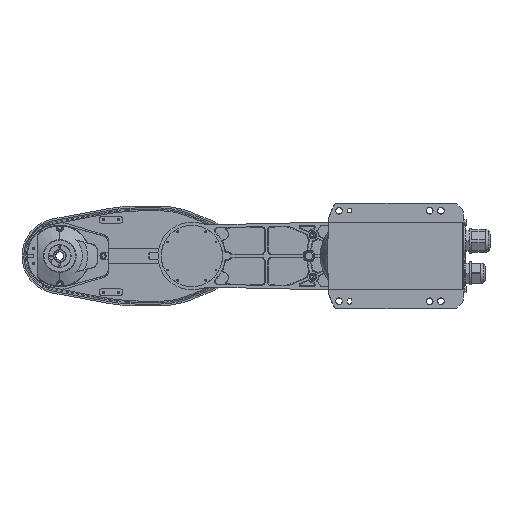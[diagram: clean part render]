
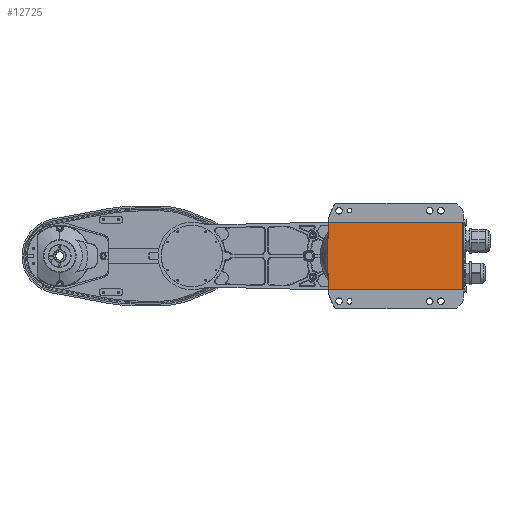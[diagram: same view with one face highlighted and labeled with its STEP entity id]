
A CAD part, front view. The second image highlights one B-rep face of the part: STEP entity #12725.
In plain terms, the highlighted planar face has unit normal (0, -1, 0).
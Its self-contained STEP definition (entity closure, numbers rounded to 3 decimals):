
#3951 = ORIENTED_EDGE ( 'NONE', *, *, #59762, .F. ) ;
#5358 = EDGE_CURVE ( 'NONE', #71130, #83469, #19158, .T. ) ;
#5999 = CARTESIAN_POINT ( 'NONE',  ( -45., 2., 0. ) ) ;
#6532 = PLANE ( 'NONE',  #44481 ) ;
#11736 = CARTESIAN_POINT ( 'NONE',  ( 135., 2., -44.017 ) ) ;
#12725 = ADVANCED_FACE ( 'NONE', ( #74526 ), #6532, .F. ) ;
#14091 = CARTESIAN_POINT ( 'NONE',  ( -45., 2., 0. ) ) ;
#14477 = VECTOR ( 'NONE', #49725, 1000. ) ;
#16712 = VECTOR ( 'NONE', #33321, 1000. ) ;
#19158 = LINE ( 'NONE', #34198, #16712 ) ;
#19632 = EDGE_LOOP ( 'NONE', ( #25416, #3951, #83419, #46228, #79204 ) ) ;
#23252 = CARTESIAN_POINT ( 'NONE',  ( 135., 2., -44.017 ) ) ;
#24106 = DIRECTION ( 'NONE',  ( -1., 0., 0. ) ) ;
#25416 = ORIENTED_EDGE ( 'NONE', *, *, #30835, .T. ) ;
#26456 = VECTOR ( 'NONE', #24106, 1000. ) ;
#28548 = EDGE_CURVE ( 'NONE', #71130, #59128, #52060, .T. ) ;
#28903 = VERTEX_POINT ( 'NONE', #11736 ) ;
#30835 = EDGE_CURVE ( 'NONE', #59128, #46107, #33170, .T. ) ;
#31603 = CARTESIAN_POINT ( 'NONE',  ( -44.232, 2., 44.017 ) ) ;
#33170 = LINE ( 'NONE', #14091, #65285 ) ;
#33321 = DIRECTION ( 'NONE',  ( 1., 0., 0. ) ) ;
#34198 = CARTESIAN_POINT ( 'NONE',  ( -44.232, 2., 44.017 ) ) ;
#44481 = AXIS2_PLACEMENT_3D ( 'NONE', #52344, #72783, #80777 ) ;
#46107 = VERTEX_POINT ( 'NONE', #57973 ) ;
#46228 = ORIENTED_EDGE ( 'NONE', *, *, #5358, .F. ) ;
#46519 = DIRECTION ( 'NONE',  ( 0.017, 0., -1. ) ) ;
#49725 = DIRECTION ( 'NONE',  ( 0., 0., 1. ) ) ;
#50870 = VECTOR ( 'NONE', #85008, 1000. ) ;
#52060 = LINE ( 'NONE', #31603, #50870 ) ;
#52344 = CARTESIAN_POINT ( 'NONE',  ( 135., 2., 44.017 ) ) ;
#57865 = LINE ( 'NONE', #23252, #26456 ) ;
#57973 = CARTESIAN_POINT ( 'NONE',  ( -44.232, 2., -44.017 ) ) ;
#59128 = VERTEX_POINT ( 'NONE', #5999 ) ;
#59762 = EDGE_CURVE ( 'NONE', #28903, #46107, #57865, .T. ) ;
#63878 = EDGE_CURVE ( 'NONE', #28903, #83469, #69744, .T. ) ;
#65285 = VECTOR ( 'NONE', #46519, 1000. ) ;
#66229 = CARTESIAN_POINT ( 'NONE',  ( 135., 2., 44.017 ) ) ;
#69744 = LINE ( 'NONE', #75533, #14477 ) ;
#71130 = VERTEX_POINT ( 'NONE', #71820 ) ;
#71820 = CARTESIAN_POINT ( 'NONE',  ( -44.232, 2., 44.017 ) ) ;
#72783 = DIRECTION ( 'NONE',  ( 0., 1., 0. ) ) ;
#74526 = FACE_OUTER_BOUND ( 'NONE', #19632, .T. ) ;
#75533 = CARTESIAN_POINT ( 'NONE',  ( 135., 2., -44.017 ) ) ;
#79204 = ORIENTED_EDGE ( 'NONE', *, *, #28548, .T. ) ;
#80777 = DIRECTION ( 'NONE',  ( 1., 0., 0. ) ) ;
#83419 = ORIENTED_EDGE ( 'NONE', *, *, #63878, .T. ) ;
#83469 = VERTEX_POINT ( 'NONE', #66229 ) ;
#85008 = DIRECTION ( 'NONE',  ( -0.017, 0., -1. ) ) ;
